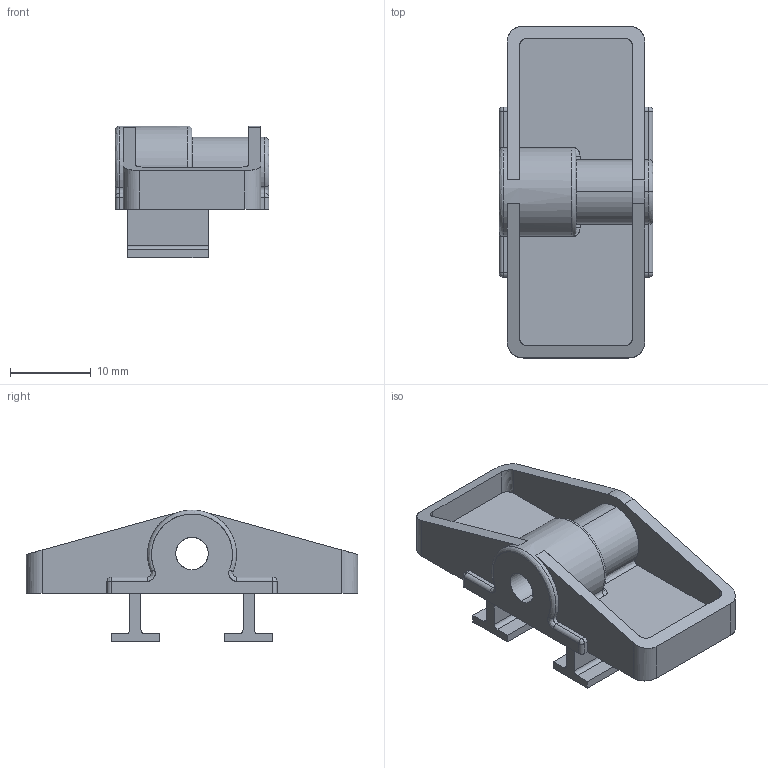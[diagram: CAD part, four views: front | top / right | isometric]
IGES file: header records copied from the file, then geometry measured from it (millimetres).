
Start section: SolidWorks IGES file using analytic representation for surfaces
Bounding box: 19 x 41 x 16.3 mm (x, y, z)
Surface area: 3548.3 mm2 (no closed solid volume)
Topology: 0 solids, 0 shells, 100 faces, 1082 edges, 1078 vertices
Faces by surface type: bspline 54, revolution 46
